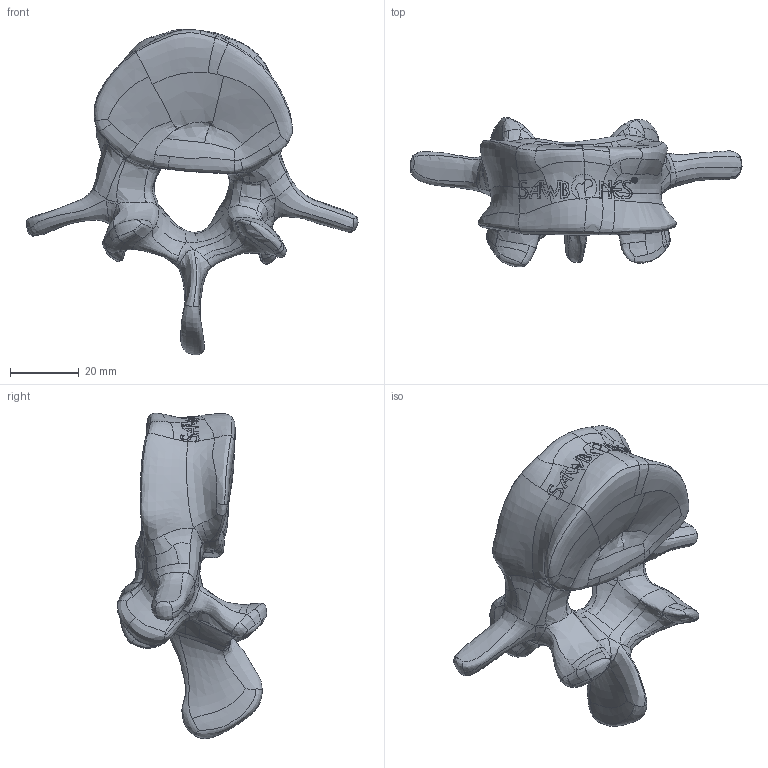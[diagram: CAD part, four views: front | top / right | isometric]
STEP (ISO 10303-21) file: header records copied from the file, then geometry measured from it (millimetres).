
FILE_DESCRIPTION (( 'STEP AP203' ), '1' );
FILE_NAME ('1385-10-4.STEP', '2025-06-12T20:15:26', ( '' ), ( '' ), 'SwSTEP 2.0', 'SolidWorks 2024', '' );
FILE_SCHEMA (( 'CONFIG_CONTROL_DESIGN' ));
Length unit declared in the file: millimetre
Products named in the file (1): 1385-10-4
Bounding box: 96.73 x 43.46 x 94.85 mm (x, y, z)
Volume: 60231.5 mm3; surface area: 14663.5 mm2
Topology: 1 solids, 1 shells, 512 faces, 1310 edges, 804 vertices
Faces by surface type: bspline 511, plane 1
Entity records: 50512 total; most frequent: CARTESIAN_POINT 42321, ORIENTED_EDGE 2620, B_SPLINE_CURVE_WITH_KNOTS 1310, EDGE_CURVE 1310, VERTEX_POINT 804, EDGE_LOOP 518, FACE_OUTER_BOUND 512, ADVANCED_FACE 512
